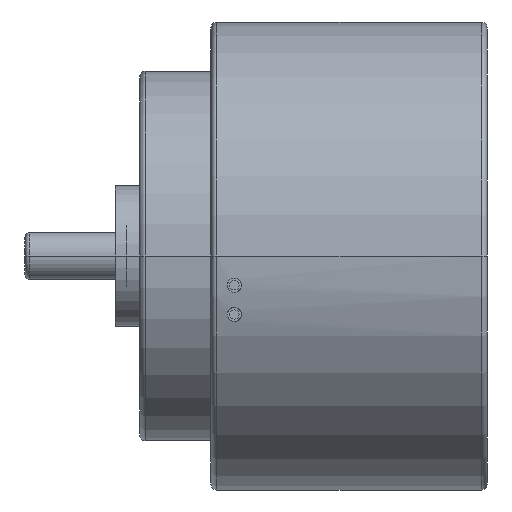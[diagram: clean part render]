
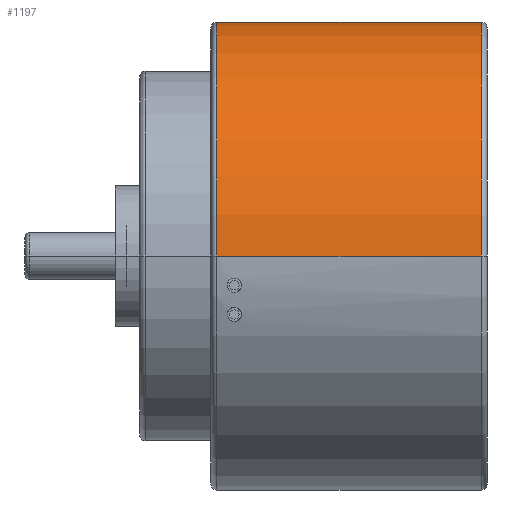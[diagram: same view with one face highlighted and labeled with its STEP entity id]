
A CAD part, front view. The second image highlights one B-rep face of the part: STEP entity #1197.
In plain terms, the highlighted cylindrical face has radius 20 mm (diameter 40 mm), a partial arc.
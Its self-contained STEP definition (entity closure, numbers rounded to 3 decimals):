
#375=CARTESIAN_POINT('',(0.5,0.,0.));
#376=DIRECTION('',(-1.,0.,0.));
#377=DIRECTION('',(0.,-1.,0.));
#378=AXIS2_PLACEMENT_3D('',#375,#376,#377);
#380=CARTESIAN_POINT('',(23.1,0.,0.));
#381=DIRECTION('',(-1.,0.,0.));
#382=DIRECTION('',(0.,-1.,0.));
#383=AXIS2_PLACEMENT_3D('',#380,#381,#382);
#390=DIRECTION('',(-1.,0.,0.));
#391=VECTOR('',#390,22.6);
#392=CARTESIAN_POINT('',(23.1,-20.,0.));
#393=LINE('',#392,#391);
#399=DIRECTION('',(-1.,0.,0.));
#400=VECTOR('',#399,22.6);
#401=CARTESIAN_POINT('',(23.1,20.,0.));
#402=LINE('',#401,#400);
#625=CARTESIAN_POINT('',(0.5,20.,0.));
#626=CARTESIAN_POINT('',(0.5,-20.,0.));
#627=VERTEX_POINT('',#625);
#628=VERTEX_POINT('',#626);
#629=CARTESIAN_POINT('',(23.1,20.,0.));
#630=CARTESIAN_POINT('',(23.1,-20.,0.));
#631=VERTEX_POINT('',#629);
#632=VERTEX_POINT('',#630);
#1183=CARTESIAN_POINT('',(-17.875,0.,0.));
#1184=DIRECTION('',(1.,0.,0.));
#1185=DIRECTION('',(0.,-1.,0.));
#1186=AXIS2_PLACEMENT_3D('',#1183,#1184,#1185);
#1187=CYLINDRICAL_SURFACE('',#1186,20.);
#1188=ORIENTED_EDGE('',*,*,#1177,.T.);
#1190=ORIENTED_EDGE('',*,*,#1189,.F.);
#1192=ORIENTED_EDGE('',*,*,#1191,.F.);
#1194=ORIENTED_EDGE('',*,*,#1193,.T.);
#1195=EDGE_LOOP('',(#1188,#1190,#1192,#1194));
#1196=FACE_OUTER_BOUND('',#1195,.F.);
#1197=ADVANCED_FACE('',(#1196),#1187,.T.);
#379=CIRCLE('',#378,20.);
#384=CIRCLE('',#383,20.);
#1177=EDGE_CURVE('',#628,#627,#379,.T.);
#1189=EDGE_CURVE('',#631,#627,#402,.T.);
#1191=EDGE_CURVE('',#632,#631,#384,.T.);
#1193=EDGE_CURVE('',#632,#628,#393,.T.);
